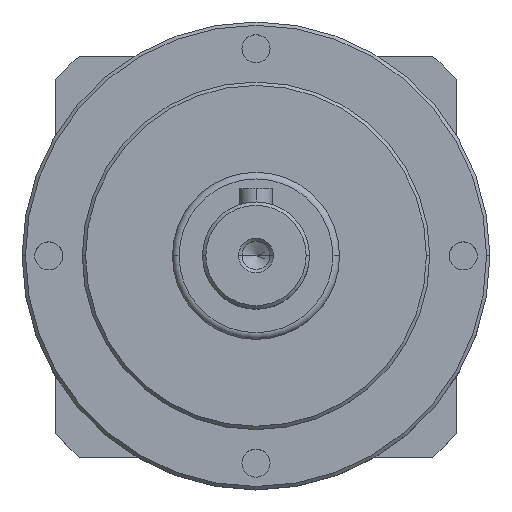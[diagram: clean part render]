
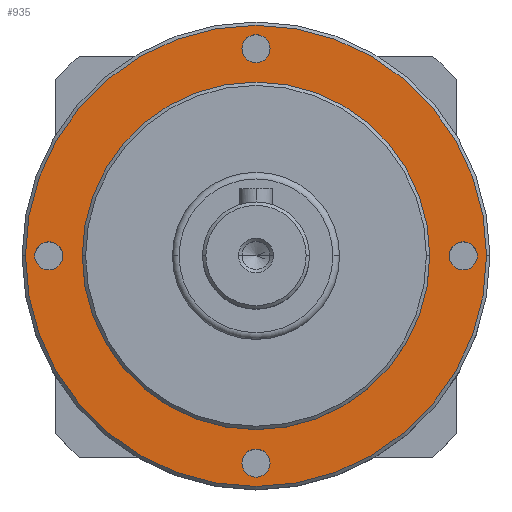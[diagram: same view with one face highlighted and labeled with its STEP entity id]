
A CAD part, top view. The second image highlights one B-rep face of the part: STEP entity #935.
In plain terms, the highlighted planar face has unit normal (0, 0, 1).
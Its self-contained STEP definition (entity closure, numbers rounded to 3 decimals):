
#6 = CIRCLE ( 'NONE', #1878, 26. ) ;
#110 = AXIS2_PLACEMENT_3D ( 'NONE', #1966, #1530, #1541 ) ;
#135 = CIRCLE ( 'NONE', #268, 34.5 ) ;
#167 = CIRCLE ( 'NONE', #1728, 34.5 ) ;
#187 = CARTESIAN_POINT ( 'NONE',  ( 0., -31., 15. ) ) ;
#236 = VERTEX_POINT ( 'NONE', #348 ) ;
#249 = DIRECTION ( 'NONE',  ( 0., 0., 1. ) ) ;
#257 = CARTESIAN_POINT ( 'NONE',  ( 0., 31., 15. ) ) ;
#268 = AXIS2_PLACEMENT_3D ( 'NONE', #2303, #2569, #1696 ) ;
#278 = ORIENTED_EDGE ( 'NONE', *, *, #1336, .F. ) ;
#304 = CIRCLE ( 'NONE', #1910, 2.1 ) ;
#313 = DIRECTION ( 'NONE',  ( 1., 0., 0. ) ) ;
#348 = CARTESIAN_POINT ( 'NONE',  ( 28.9, 0., 15. ) ) ;
#397 = AXIS2_PLACEMENT_3D ( 'NONE', #1942, #2617, #1518 ) ;
#452 = VERTEX_POINT ( 'NONE', #2603 ) ;
#473 = CARTESIAN_POINT ( 'NONE',  ( 34.5, 0., 15. ) ) ;
#480 = VERTEX_POINT ( 'NONE', #473 ) ;
#528 = CARTESIAN_POINT ( 'NONE',  ( 0., -31., 15. ) ) ;
#531 = DIRECTION ( 'NONE',  ( 1., 0., 0. ) ) ;
#574 = EDGE_CURVE ( 'NONE', #2811, #2774, #6, .T. ) ;
#617 = CARTESIAN_POINT ( 'NONE',  ( -34.5, 0., 15. ) ) ;
#622 = DIRECTION ( 'NONE',  ( 0., 0., 1. ) ) ;
#641 = CIRCLE ( 'NONE', #2106, 2.1 ) ;
#682 = CARTESIAN_POINT ( 'NONE',  ( -31., 0., 15. ) ) ;
#685 = EDGE_LOOP ( 'NONE', ( #2391, #1603 ) ) ;
#755 = CARTESIAN_POINT ( 'NONE',  ( -26., 0., 15. ) ) ;
#758 = FACE_OUTER_BOUND ( 'NONE', #1535, .T. ) ;
#766 = CARTESIAN_POINT ( 'NONE',  ( 26., 0., 15. ) ) ;
#810 = ORIENTED_EDGE ( 'NONE', *, *, #1486, .F. ) ;
#814 = DIRECTION ( 'NONE',  ( 0., 0., 1. ) ) ;
#826 = CIRCLE ( 'NONE', #2416, 2.1 ) ;
#854 = EDGE_LOOP ( 'NONE', ( #2589, #2421 ) ) ;
#891 = FACE_BOUND ( 'NONE', #1171, .T. ) ;
#903 = CARTESIAN_POINT ( 'NONE',  ( -2.1, 31., 15. ) ) ;
#935 = ADVANCED_FACE ( 'NONE', ( #758, #1199, #1739, #891, #1884, #2572 ), #2612, .T. ) ;
#956 = CARTESIAN_POINT ( 'NONE',  ( 2.1, 31., 15. ) ) ;
#1071 = ORIENTED_EDGE ( 'NONE', *, *, #2356, .F. ) ;
#1082 = CARTESIAN_POINT ( 'NONE',  ( 33.1, 0., 15. ) ) ;
#1088 = VERTEX_POINT ( 'NONE', #956 ) ;
#1102 = VERTEX_POINT ( 'NONE', #1994 ) ;
#1104 = DIRECTION ( 'NONE',  ( 1., 0., 0. ) ) ;
#1141 = EDGE_CURVE ( 'NONE', #1404, #236, #641, .T. ) ;
#1171 = EDGE_LOOP ( 'NONE', ( #1721, #1374 ) ) ;
#1179 = DIRECTION ( 'NONE',  ( 0., 0., 1. ) ) ;
#1199 = FACE_BOUND ( 'NONE', #854, .T. ) ;
#1271 = EDGE_CURVE ( 'NONE', #1102, #1877, #304, .T. ) ;
#1336 = EDGE_CURVE ( 'NONE', #452, #2746, #1880, .T. ) ;
#1374 = ORIENTED_EDGE ( 'NONE', *, *, #2482, .F. ) ;
#1402 = CIRCLE ( 'NONE', #2581, 2.1 ) ;
#1404 = VERTEX_POINT ( 'NONE', #1082 ) ;
#1416 = DIRECTION ( 'NONE',  ( 0., 0., 1. ) ) ;
#1431 = CIRCLE ( 'NONE', #2609, 2.1 ) ;
#1462 = DIRECTION ( 'NONE',  ( 0., 0., 1. ) ) ;
#1474 = EDGE_CURVE ( 'NONE', #1877, #1102, #1402, .T. ) ;
#1486 = EDGE_CURVE ( 'NONE', #1088, #2185, #826, .T. ) ;
#1518 = DIRECTION ( 'NONE',  ( 1., 0., 0. ) ) ;
#1524 = CIRCLE ( 'NONE', #397, 2.1 ) ;
#1530 = DIRECTION ( 'NONE',  ( 0., 0., 1. ) ) ;
#1535 = EDGE_LOOP ( 'NONE', ( #2418, #2541 ) ) ;
#1541 = DIRECTION ( 'NONE',  ( 1., 0., 0. ) ) ;
#1577 = CARTESIAN_POINT ( 'NONE',  ( 31., 0., 15. ) ) ;
#1582 = DIRECTION ( 'NONE',  ( 0., 0., 1. ) ) ;
#1603 = ORIENTED_EDGE ( 'NONE', *, *, #1474, .F. ) ;
#1688 = CARTESIAN_POINT ( 'NONE',  ( -31., 0., 15. ) ) ;
#1696 = DIRECTION ( 'NONE',  ( 1., 0., 0. ) ) ;
#1719 = DIRECTION ( 'NONE',  ( 1., 0., 0. ) ) ;
#1721 = ORIENTED_EDGE ( 'NONE', *, *, #1141, .F. ) ;
#1728 = AXIS2_PLACEMENT_3D ( 'NONE', #2233, #249, #1815 ) ;
#1739 = FACE_BOUND ( 'NONE', #2460, .T. ) ;
#1768 = CIRCLE ( 'NONE', #1973, 26. ) ;
#1803 = DIRECTION ( 'NONE',  ( 1., 0., 0. ) ) ;
#1815 = DIRECTION ( 'NONE',  ( 1., 0., 0. ) ) ;
#1817 = EDGE_LOOP ( 'NONE', ( #2509, #278 ) ) ;
#1829 = CARTESIAN_POINT ( 'NONE',  ( -28.9, 0., 15. ) ) ;
#1844 = CIRCLE ( 'NONE', #2646, 2.1 ) ;
#1877 = VERTEX_POINT ( 'NONE', #2712 ) ;
#1878 = AXIS2_PLACEMENT_3D ( 'NONE', #2518, #1416, #2053 ) ;
#1880 = CIRCLE ( 'NONE', #2230, 2.1 ) ;
#1884 = FACE_BOUND ( 'NONE', #685, .T. ) ;
#1894 = CARTESIAN_POINT ( 'NONE',  ( 0., 0., 15. ) ) ;
#1910 = AXIS2_PLACEMENT_3D ( 'NONE', #528, #2037, #313 ) ;
#1929 = VERTEX_POINT ( 'NONE', #617 ) ;
#1942 = CARTESIAN_POINT ( 'NONE',  ( 31., 0., 15. ) ) ;
#1952 = EDGE_CURVE ( 'NONE', #2774, #2811, #1768, .T. ) ;
#1966 = CARTESIAN_POINT ( 'NONE',  ( 0., 0., 15. ) ) ;
#1973 = AXIS2_PLACEMENT_3D ( 'NONE', #1894, #814, #2319 ) ;
#1994 = CARTESIAN_POINT ( 'NONE',  ( 2.1, -31., 15. ) ) ;
#2037 = DIRECTION ( 'NONE',  ( 0., 0., 1. ) ) ;
#2053 = DIRECTION ( 'NONE',  ( 1., 0., 0. ) ) ;
#2106 = AXIS2_PLACEMENT_3D ( 'NONE', #1577, #2718, #2530 ) ;
#2185 = VERTEX_POINT ( 'NONE', #903 ) ;
#2205 = EDGE_CURVE ( 'NONE', #1929, #480, #167, .T. ) ;
#2228 = EDGE_CURVE ( 'NONE', #2746, #452, #1431, .T. ) ;
#2230 = AXIS2_PLACEMENT_3D ( 'NONE', #1688, #1462, #2559 ) ;
#2233 = CARTESIAN_POINT ( 'NONE',  ( 0., 0., 15. ) ) ;
#2303 = CARTESIAN_POINT ( 'NONE',  ( 0., 0., 15. ) ) ;
#2319 = DIRECTION ( 'NONE',  ( 1., 0., 0. ) ) ;
#2356 = EDGE_CURVE ( 'NONE', #2185, #1088, #1844, .T. ) ;
#2391 = ORIENTED_EDGE ( 'NONE', *, *, #1271, .F. ) ;
#2416 = AXIS2_PLACEMENT_3D ( 'NONE', #257, #2644, #1104 ) ;
#2418 = ORIENTED_EDGE ( 'NONE', *, *, #2205, .T. ) ;
#2421 = ORIENTED_EDGE ( 'NONE', *, *, #574, .F. ) ;
#2460 = EDGE_LOOP ( 'NONE', ( #810, #1071 ) ) ;
#2482 = EDGE_CURVE ( 'NONE', #236, #1404, #1524, .T. ) ;
#2509 = ORIENTED_EDGE ( 'NONE', *, *, #2228, .F. ) ;
#2518 = CARTESIAN_POINT ( 'NONE',  ( 0., 0., 15. ) ) ;
#2530 = DIRECTION ( 'NONE',  ( 1., 0., 0. ) ) ;
#2541 = ORIENTED_EDGE ( 'NONE', *, *, #2821, .T. ) ;
#2559 = DIRECTION ( 'NONE',  ( 1., 0., 0. ) ) ;
#2569 = DIRECTION ( 'NONE',  ( 0., 0., 1. ) ) ;
#2572 = FACE_BOUND ( 'NONE', #1817, .T. ) ;
#2581 = AXIS2_PLACEMENT_3D ( 'NONE', #187, #622, #1719 ) ;
#2589 = ORIENTED_EDGE ( 'NONE', *, *, #1952, .F. ) ;
#2603 = CARTESIAN_POINT ( 'NONE',  ( -33.1, 0., 15. ) ) ;
#2609 = AXIS2_PLACEMENT_3D ( 'NONE', #682, #1582, #1803 ) ;
#2612 = PLANE ( 'NONE',  #110 ) ;
#2617 = DIRECTION ( 'NONE',  ( 0., 0., 1. ) ) ;
#2644 = DIRECTION ( 'NONE',  ( 0., 0., 1. ) ) ;
#2646 = AXIS2_PLACEMENT_3D ( 'NONE', #2711, #1179, #531 ) ;
#2711 = CARTESIAN_POINT ( 'NONE',  ( 0., 31., 15. ) ) ;
#2712 = CARTESIAN_POINT ( 'NONE',  ( -2.1, -31., 15. ) ) ;
#2718 = DIRECTION ( 'NONE',  ( 0., 0., 1. ) ) ;
#2746 = VERTEX_POINT ( 'NONE', #1829 ) ;
#2774 = VERTEX_POINT ( 'NONE', #755 ) ;
#2811 = VERTEX_POINT ( 'NONE', #766 ) ;
#2821 = EDGE_CURVE ( 'NONE', #480, #1929, #135, .T. ) ;
